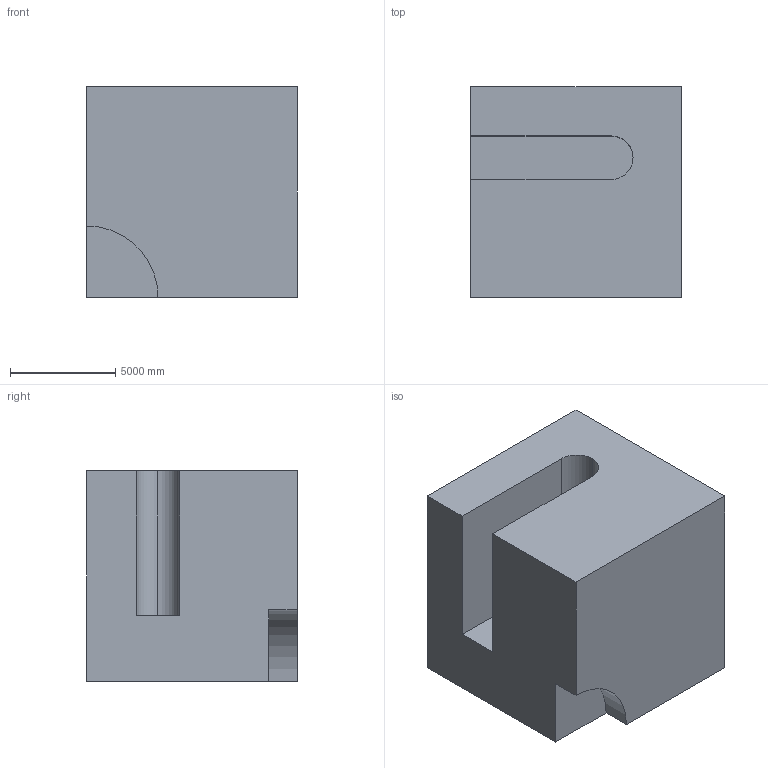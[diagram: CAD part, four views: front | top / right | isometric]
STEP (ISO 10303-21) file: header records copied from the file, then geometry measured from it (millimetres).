
FILE_DESCRIPTION (( 'STEP AP203' ), '1' );
FILE_NAME ('209.STEP', '2022-09-07T12:17:58', ( 'user' ), ( '' ), 'SwSTEP 2.0', 'SolidWorks 2021', '' );
FILE_SCHEMA (( 'CONFIG_CONTROL_DESIGN' ));
Length unit declared in the file: centimetre
Products named in the file (1): 209
Bounding box: 10000 x 10000 x 10000 mm (x, y, z)
Volume: 881561796727.7 mm3; surface area: 697996211 mm2
Topology: 1 solids, 1 shells, 13 faces, 33 edges, 22 vertices
Faces by surface type: plane 10, cylinder 3
Entity records: 470 total; most frequent: CARTESIAN_POINT 69, DIRECTION 67, ORIENTED_EDGE 66, EDGE_CURVE 33, LINE 27, VECTOR 27, VERTEX_POINT 22, AXIS2_PLACEMENT_3D 20
